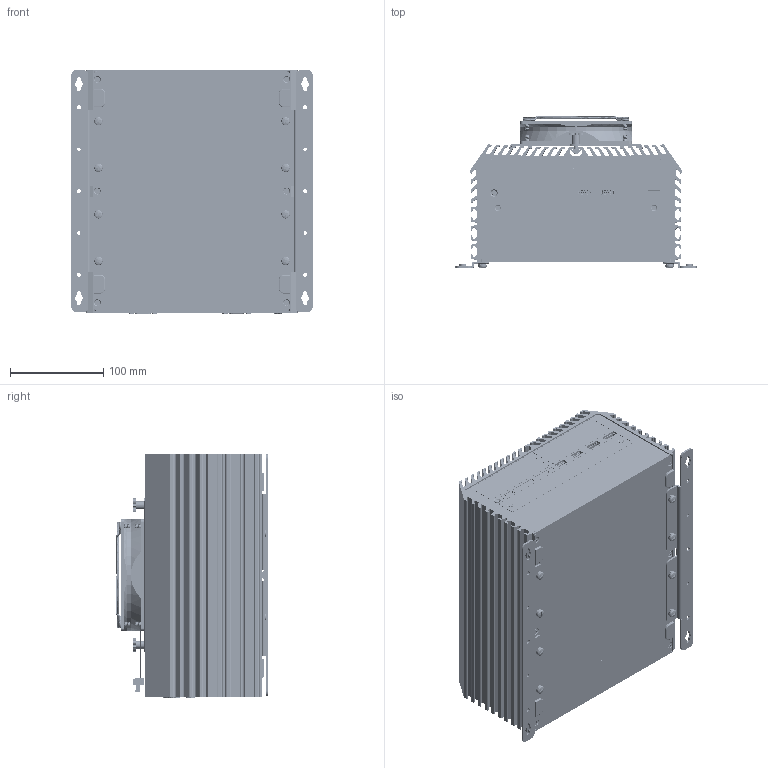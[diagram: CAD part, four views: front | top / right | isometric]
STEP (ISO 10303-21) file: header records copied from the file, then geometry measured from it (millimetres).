
FILE_DESCRIPTION (( 'STEP AP214' ), '1' );
FILE_NAME ('1-DS-1402-外觀+風扇-20230419.STEP', '2025-04-24T03:39:30', ( '' ), ( '' ), 'SwSTEP 2.0', 'SolidWorks 2014', '' );
FILE_SCHEMA (( 'AUTOMOTIVE_DESIGN' ));
Length unit declared in the file: millimetre
Products named in the file (59): RUUVI_1_1; DS-1202-Top Cover asm-金金-20180402; 23-D0242300200_DP1_DISPLAYPORT; DS-1302-Riser Card Bracket asm-20200311; RITILA_ASM_1_ASM_4_ASM; Screw-耐落-沙拉-120-星型-T10-黑-M3x5(M3-N103052230); MANIFOLD_SOLID_BREP_906_1_1; WHDM-19FLBSDR; MANIFOLD_SOLID_BREP_907_1_1; 銅柱-4-4OUNC-4.8_11.8H(M3-COSD6L00000)東莞?輝; 23-D0351500040_CN2_MINIDIN_USBX2; DS-1302-Rear Bezel(M1-407130234100)-20200419; 12_ASM_23_ASM; Screw-丸頭-十字-外齒-M5x8(M3-SCREAB00002); DS-1302-Front Bezel(M1-407130224100)-20200311; MANIFOLD_SOLID_BREP_901_1_1; 12-PLATE_9; 23-D0341500030_DC_IN1_5EHDRM-03P_8; D20H1P1PA1X2A111N2 (3D); Rubber Foot Shore(M4-RUFT0100001); RUM2JA-KFJC-BCB-0R; Screw-丸頭-十字-耐落-SW-M5x6(M3-SCREAB00001); 1-DS-1402-外觀+風扇-20230419; Screw-沙拉-120-星型-T10+E型扣-黑-M3x13(M3-1103132270+M3-402004050415); Top Cover(M1-407120206300)-DS-1202-金金-20181015; Screw-耐落-沙拉-90-星型-T10-黑-M3x8(M3-N103082260); 外接電源B-4腳; M5-SP_3; DS-1400-PCBA-ASM-20230419; 23-D0341500040_FAN2_ECH350R_3P_1LAYER; ROTOR_120MM_FAN_2_2; DS-1300-Front Bezel-symbol_panel(M0-ZZZZ5C30009)-20200923; VOLUMENK_S_VRPER1-4576_2_2; PWR_BTN_TC003; DS-1102-Riser Card Bracket-A(M1-107110253400); DS-1302-Riser Card Bracket(M1-107130253400)-20210204; 風扇組合-5010-20190103; MANIFOLD_SOLID_BREP_903_1_1; DS-Wall Mount Bracket(M1-ZZZZ3611004); DS-1400-Main Board asm-20221108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
Assembly tree (100 placements, depth 4):
  1-DS-1402-外觀+風扇-20230419
    DS-1400-PCBA-ASM-20230419
      DS-1400-Main Board asm-20221108
        23-D0351500040_CN1_ECHB350R-04P
        AUTIO_2IN1
        D20H1P1PA1X2A111N2 (3D)
        23-D0351500040_CN2_MINIDIN_USBX2
        D330H1SL72211DD0
        23-D0242300200_DP1_DISPLAYPORT  x2
        23-D0341500040_FAN2_ECH350R_3P_1LAYER
        23-D0341500030_DC_IN1_5EHDRM-03P_8
        PWR_BTN_TC003
        USB-3.0-SMT-T.H(122-0921NX0504)  x2
        WHDM-19FLBSDR
        RUM2JA-KFJC-BCB-0R  x2
    DS-1302-Front Bezel(M1-407130224100)-20200311
    DS-1300-Front Bezel-symbol_panel(M0-ZZZZ5C30009)-20200923
    DS-1300-Front Open Bezel(M1-407130084101)
    DS-1200-Front Bezel Matching Bezel(M1-407120084100)  x2
    DS-1302-Rear Bezel(M1-407130234100)-20200419
    DS-1202-Top Cover asm-金金-20180402
      Top Cover(M1-407120206300)-DS-1202-金金-20181015
    DS-1200-Bottom Cover asm-20200406
      DS-1200-Bottom Cover(M1-407120011200)-20180821
      Rubber Foot Shore(M4-RUFT0100001)  x4
    Screw-耐落-沙拉-120-星型-T10-黑-M3x5(M3-N103052230)  x5
    Screw-耐落-沙拉-90-星型-T10-黑-M3x8(M3-N103082260)  x6
    Screw-沙拉-120-星型-T10+E型扣-黑-M3x13(M3-1103132270+M3-402004050415)  x2
    Screw-丸頭-十字-外齒-M5x8(M3-SCREAB00002)
    Hole Plugs(M4-RUBR0100004)-M06V0  x2
    DS-Wall Mount Bracket(M1-ZZZZ3611004)  x2
    Screw-丸頭-十字-耐落-SW-M5x6(M3-SCREAB00001)  x8
    銅柱-4-4OUNC-4.8_11.8H(M3-COSD6L00000)東莞?輝  x6
    DS-1302-Riser Card Bracket asm-20200311
      DS-1302-Riser Card Bracket(M1-107130253400)-20210204
        DS-1102-Riser Card Bracket-A(M1-107110253400)
      L-Bracket(M0-LBKT2300017)  x2
      Screw-耐落-傘頭-十字-M3x5(M3-N103055010)  x2
    風扇組合-5010-20190103
    12_ASM_23_ASM
      12-PLATE_9
      M5-SP_3  x2
      120_X_120_X_25_DC_FAN_ASM_3_ASM_ASM
        ROTOR_120MM_FAN_2_2
        VOLUMENK_S_VRPER1-4576_2_2
      NUT-M5  x2
      RUUVI_1_1  x8
      RITILA_ASM_1_ASM_4_ASM
        MANIFOLD_SOLID_BREP_899_1_1
        MANIFOLD_SOLID_BREP_900_1_1
        MANIFOLD_SOLID_BREP_901_1_1
        MANIFOLD_SOLID_BREP_902_1_1
        MANIFOLD_SOLID_BREP_903_1_1
        MANIFOLD_SOLID_BREP_904_1_1
        MANIFOLD_SOLID_BREP_905_1_1
        MANIFOLD_SOLID_BREP_906_1_1
        MANIFOLD_SOLID_BREP_907_1_1
        MANIFOLD_SOLID_BREP_908_1_1
      外接電源B-4腳
Bounding box: 259 x 163.95 x 262.9 mm (x, y, z)
Volume: 1612889.9 mm3; surface area: 963340 mm2
Topology: 132 solids, 300 shells, 27100 faces, 76384 edges, 49525 vertices
Faces by surface type: plane 16522, cylinder 7838, bspline 2264, cone 334, sphere 72, torus 70
Entity records: 811444 total; most frequent: CARTESIAN_POINT 220060, ORIENTED_EDGE 105336, DIRECTION 86507, EDGE_CURVE 52781, VECTOR 34339, LINE 34339, VERTEX_POINT 34321, AXIS2_PLACEMENT_3D 26084
